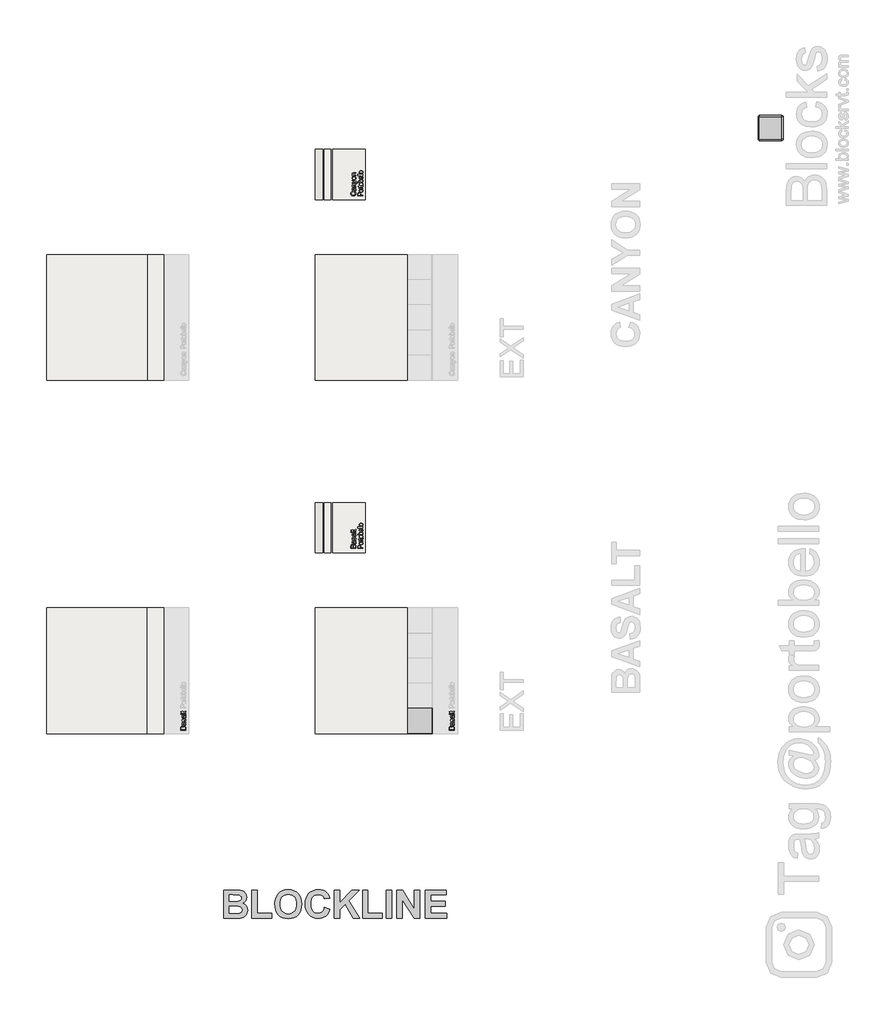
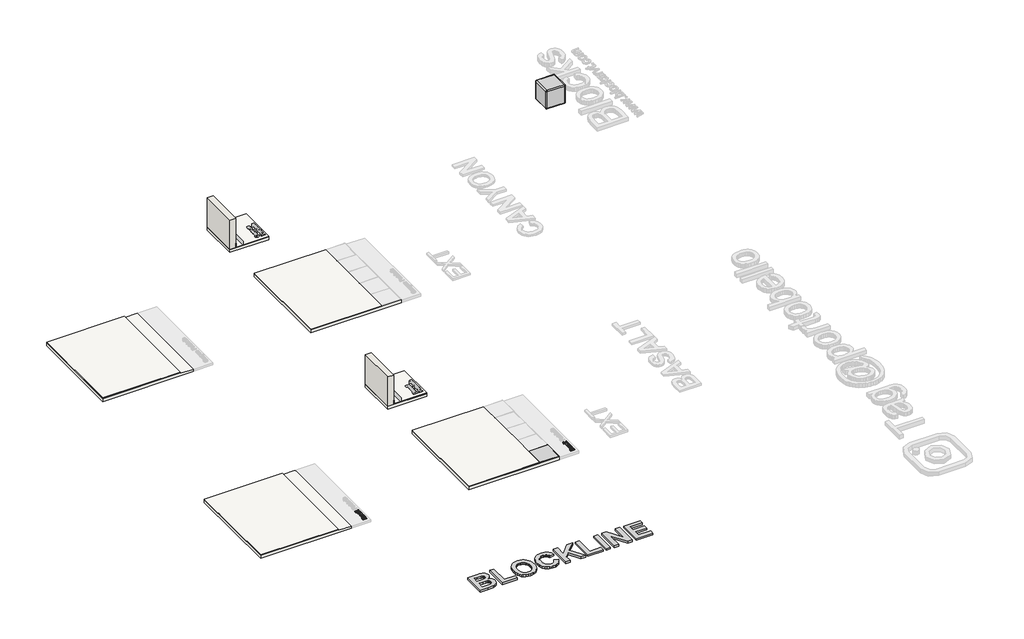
# One storey, part 1 of 6: 12 slabs, 4 proxies, 2 walls, 1 furniture element.
"""IFC4 building model written with IfcOpenShell, lengths in millimetres."""

from ifc_helpers import new_model, si_unit, frame, origin, origin_with_axes, place, context, project, spatial, polyline, outline, extrude, transform, mapped, element, save
from components import basalt_b67e728c, branco_22256ad2

model = new_model("IFC4")

# Units and contexts
model_context = context("Model", 3, world=origin())
ifc_project = project(units=[si_unit("LENGTHUNIT", "METRE", prefix="MILLI")], contexts=[model_context])

# Site, building, storey
site = spatial("IfcSite", under=ifc_project)
building = spatial("IfcBuilding", under=site)
storey = spatial("IfcBuildingStorey", under=building, Name="PORTOBELLO - SHOWROOM", Elevation=0.0)

# Proxies
placement = place(None, origin())
element("IfcBuildingElementProxy", 1, Name="10mm Arial", ObjectType="10mm Arial", at=placement, inside=storey, context=model_context, shape_type="SweptSolid", body=[
    extrude(outline(polyline([(-8366.357312, -8357.33877), (-8466.8136221, -8357.33877), (-8466.8136221, -8319.0054661), (-8463.8583034, -8300.2312217), (-8454.7716181, -8289.1457109), (-8441.9202738, -8285.1357971), (-8430.1848381, -8288.5080487), (-8421.2943566, -8298.69838), (-8411.9256284, -8286.3252822), (-8396.3029064, -8281.9965374), (-8382.8016371, -8284.9518561), (-8373.1876543, -8292.2727078), (-8368.0863573, -8303.1988031), (-8366.357312, -8319.2997717), (-8366.357312, -8357.33877)]), holes=[polyline([(-8426.0032461, -8344.7817313), (-8426.0032461, -8321.8504202), (-8427.0823666, -8308.4595156), (-8431.7299425, -8300.4028999), (-8439.9091855, -8297.6928359), (-8448.1006913, -8300.2189589), (-8452.9444709, -8307.4539715), (-8454.2565833, -8323.5917284), (-8454.2565833, -8344.7817313), (-8426.0032461, -8344.7817313)]), polyline([(-8378.9143507, -8344.7817313), (-8378.9143507, -8319.0299916), (-8379.40486, -8309.7103144), (-8382.1394495, -8301.825377), (-8387.7189931, -8296.6014526), (-8396.180279, -8294.5535762), (-8405.9414146, -8296.9570719), (-8411.7662129, -8304.7439075), (-8413.4462073, -8320.2562649), (-8413.4462073, -8344.7817313), (-8378.9143507, -8344.7817313)])]), frame((0.0, 0.0, -17.1171569), z_axis=(0.0, 0.0, 1.0), x_axis=(1.0, 0.0, 0.0)), (0.0, 0.0, 1.0), 20.0),
    extrude(outline(polyline([(-8375.775091, -8219.2113436), (-8367.2647542, -8231.3882376), (-8364.7876821, -8244.8404559), (-8366.2776042, -8255.3342898), (-8370.7473704, -8263.0751401), (-8377.5347932, -8267.848409), (-8385.977685, -8269.4394987), (-8395.9104989, -8267.036003), (-8403.120986, -8260.7206954), (-8407.2412643, -8251.9283157), (-8409.1297253, -8241.0635341), (-8413.4462073, -8219.28492), (-8416.2421105, -8219.2113436), (-8425.5127368, -8222.6694343), (-8429.1425058, -8236.5508483), (-8426.7267474, -8249.2550399), (-8418.1550969, -8255.31283), (-8419.7247267, -8267.8698688), (-8431.9874599, -8262.437478), (-8439.1734215, -8251.49912), (-8441.6995446, -8234.9321675), (-8439.4677271, -8219.7141156), (-8433.8636581, -8211.1179397), (-8425.3410585, -8207.2674415), (-8414.3536496, -8206.6543048), (-8398.7309275, -8206.6543048), (-8376.9155252, -8206.0166427), (-8366.357312, -8203.5150451), (-8366.357312, -8216.0720839), (-8375.775091, -8219.2113436)]), holes=[polyline([(-8400.8891686, -8219.2113436), (-8397.0386703, -8239.4693788), (-8395.0030566, -8250.2728467), (-8391.6921187, -8255.1656773), (-8386.8606018, -8256.8824599), (-8380.0670476, -8253.1423263), (-8377.3447209, -8242.1671801), (-8380.3490905, -8229.4629885), (-8387.6208913, -8221.2714828), (-8397.3329759, -8219.28492), (-8400.8891686, -8219.2113436)])]), frame((0.0, 0.0, -17.1171569), z_axis=(0.0, 0.0, 1.0), x_axis=(1.0, 0.0, 0.0)), (0.0, 0.0, 1.0), 20.0),
    extrude(outline(polyline([(-8388.3321298, -8194.0972661), (-8389.9017596, -8181.5402273), (-8380.5820824, -8175.7276918), (-8377.3447209, -8162.4103635), (-8380.3123023, -8149.6080701), (-8387.2775347, -8145.4387408), (-8392.918392, -8149.6325956), (-8396.4991101, -8162.5575163), (-8402.6427394, -8181.4666509), (-8409.8164383, -8189.7194703), (-8419.9454559, -8192.5276362), (-8429.3019213, -8190.2712933), (-8436.4510948, -8184.1154012), (-8440.1667029, -8176.132362), (-8441.6995446, -8165.328894), (-8439.2347352, -8150.0495285), (-8432.5638083, -8140.3374438), (-8421.2943566, -8136.0209617), (-8419.7247267, -8148.5780005), (-8426.653171, -8153.2991528), (-8429.1425058, -8164.3478754), (-8426.7635356, -8176.3653539), (-8421.2207802, -8179.9705974), (-8417.5664857, -8178.474544), (-8414.795108, -8173.7901799), (-8412.1218322, -8162.9744493), (-8406.2111948, -8144.5435613), (-8399.5157424, -8135.9841735), (-8388.6019099, -8132.8817021), (-8376.5844314, -8136.5237338), (-8367.8656281, -8147.0328961), (-8364.7876821, -8162.5820418), (-8366.2714728, -8175.2433138), (-8370.722845, -8184.4832832), (-8378.0927476, -8190.651438), (-8388.3321298, -8194.0972661)])), frame((0.0, 0.0, -17.1171569), z_axis=(0.0, 0.0, 1.0), x_axis=(1.0, 0.0, 0.0)), (0.0, 0.0, 1.0), 20.0),
    extrude(outline(polyline([(-8375.775091, -8071.6661381), (-8367.2647542, -8083.8430321), (-8364.7876821, -8097.2952504), (-8366.2776042, -8107.7890843), (-8370.7473704, -8115.5299346), (-8377.5347932, -8120.3032035), (-8385.977685, -8121.8942931), (-8395.9104989, -8119.4907974), (-8403.120986, -8113.1754898), (-8407.2412643, -8104.3831102), (-8409.1297253, -8093.5183286), (-8413.4462073, -8071.7397145), (-8416.2421105, -8071.6661381), (-8425.5127368, -8075.1242288), (-8429.1425058, -8089.0056428), (-8426.7267474, -8101.7098343), (-8418.1550969, -8107.7676245), (-8419.7247267, -8120.3246633), (-8431.9874599, -8114.8922725), (-8439.1734215, -8103.9539145), (-8441.6995446, -8087.386962), (-8439.4677271, -8072.1689101), (-8433.8636581, -8063.5727342), (-8425.3410585, -8059.7222359), (-8414.3536496, -8059.1090993), (-8398.7309275, -8059.1090993), (-8376.9155252, -8058.4714372), (-8366.357312, -8055.9698396), (-8366.357312, -8068.5268784), (-8375.775091, -8071.6661381)]), holes=[polyline([(-8400.8891686, -8071.6661381), (-8397.0386703, -8091.9241733), (-8395.0030566, -8102.7276412), (-8391.6921187, -8107.6204717), (-8386.8606018, -8109.3372544), (-8380.0670476, -8105.5971207), (-8377.3447209, -8094.6219746), (-8380.3490905, -8081.917783), (-8387.6208913, -8073.7262772), (-8397.3329759, -8071.7397145), (-8400.8891686, -8071.6661381)])]), frame((0.0, 0.0, -17.1171569), z_axis=(0.0, 0.0, 1.0), x_axis=(1.0, 0.0, 0.0)), (0.0, 0.0, 1.0), 20.0),
    extrude(outline(polyline([(-8366.357312, -8041.843171), (-8466.8136221, -8041.843171), (-8466.8136221, -8029.2861322), (-8366.357312, -8029.2861322), (-8366.357312, -8041.843171)])), frame((0.0, 0.0, -17.1171569), z_axis=(0.0, 0.0, 1.0), x_axis=(1.0, 0.0, 0.0)), (0.0, 0.0, 1.0), 20.0),
    extrude(outline(polyline([(-8376.8296861, -7983.7668667), (-8365.98943, -7982.1972368), (-8364.7876821, -7991.5904904), (-8366.8723467, -8002.1119155), (-8372.3415257, -8007.3603653), (-8386.5908217, -8008.8809442), (-8427.5728759, -8008.8809442), (-8427.5728759, -8018.2987233), (-8440.1299147, -8018.2987233), (-8440.1299147, -8008.8809442), (-8458.0580306, -8008.8809442), (-8465.440196, -7996.3239054), (-8440.1299147, -7996.3239054), (-8440.1299147, -7983.7668667), (-8427.5728759, -7983.7668667), (-8427.5728759, -7996.3239054), (-8386.9587037, -7996.3239054), (-8380.4839806, -7995.6617179), (-8378.1908495, -7993.5157395), (-8377.3447209, -7989.2360457), (-8376.8296861, -7983.7668667)])), frame((0.0, 0.0, -17.1171569), z_axis=(0.0, 0.0, 1.0), x_axis=(1.0, 0.0, 0.0)), (0.0, 0.0, 1.0), 20.0),
])
element("IfcBuildingElementProxy", 2, Name="10mm Arial", ObjectType="10mm Arial", at=placement, inside=storey, context=model_context, shape_type="SweptSolid", body=[
    extrude(outline(polyline([(-3022.357312, -8357.33877), (-3122.8136221, -8357.33877), (-3122.8136221, -8319.0054661), (-3119.8583034, -8300.2312217), (-3110.7716181, -8289.1457109), (-3097.9202738, -8285.1357971), (-3086.1848381, -8288.5080487), (-3077.2943566, -8298.69838), (-3067.9256284, -8286.3252822), (-3052.3029064, -8281.9965374), (-3038.8016371, -8284.9518561), (-3029.1876543, -8292.2727078), (-3024.0863573, -8303.1988031), (-3022.357312, -8319.2997717), (-3022.357312, -8357.33877)]), holes=[polyline([(-3082.0032461, -8344.7817313), (-3082.0032461, -8321.8504202), (-3083.0823666, -8308.4595156), (-3087.7299425, -8300.4028999), (-3095.9091855, -8297.6928359), (-3104.1006913, -8300.2189589), (-3108.9444709, -8307.4539715), (-3110.2565833, -8323.5917284), (-3110.2565833, -8344.7817313), (-3082.0032461, -8344.7817313)]), polyline([(-3034.9143507, -8344.7817313), (-3034.9143507, -8319.0299916), (-3035.40486, -8309.7103144), (-3038.1394495, -8301.825377), (-3043.7189931, -8296.6014526), (-3052.180279, -8294.5535762), (-3061.9414146, -8296.9570719), (-3067.7662129, -8304.7439075), (-3069.4462073, -8320.2562649), (-3069.4462073, -8344.7817313), (-3034.9143507, -8344.7817313)])]), frame((0.0, 0.0, -17.1171569), z_axis=(0.0, 0.0, 1.0), x_axis=(1.0, 0.0, 0.0)), (0.0, 0.0, 1.0), 20.0),
    extrude(outline(polyline([(-3031.775091, -8219.2113436), (-3023.2647542, -8231.3882376), (-3020.7876821, -8244.8404559), (-3022.2776042, -8255.3342898), (-3026.7473704, -8263.0751401), (-3033.5347932, -8267.848409), (-3041.977685, -8269.4394987), (-3051.9104989, -8267.036003), (-3059.120986, -8260.7206954), (-3063.2412643, -8251.9283157), (-3065.1297253, -8241.0635341), (-3069.4462073, -8219.28492), (-3072.2421105, -8219.2113436), (-3081.5127368, -8222.6694343), (-3085.1425058, -8236.5508483), (-3082.7267474, -8249.2550399), (-3074.1550969, -8255.31283), (-3075.7247267, -8267.8698688), (-3087.9874599, -8262.437478), (-3095.1734215, -8251.49912), (-3097.6995446, -8234.9321675), (-3095.4677271, -8219.7141156), (-3089.8636581, -8211.1179397), (-3081.3410585, -8207.2674415), (-3070.3536496, -8206.6543048), (-3054.7309275, -8206.6543048), (-3032.9155252, -8206.0166427), (-3022.357312, -8203.5150451), (-3022.357312, -8216.0720839), (-3031.775091, -8219.2113436)]), holes=[polyline([(-3056.8891686, -8219.2113436), (-3053.0386703, -8239.4693788), (-3051.0030566, -8250.2728467), (-3047.6921187, -8255.1656773), (-3042.8606018, -8256.8824599), (-3036.0670476, -8253.1423263), (-3033.3447209, -8242.1671801), (-3036.3490905, -8229.4629885), (-3043.6208913, -8221.2714828), (-3053.3329759, -8219.28492), (-3056.8891686, -8219.2113436)])]), frame((0.0, 0.0, -17.1171569), z_axis=(0.0, 0.0, 1.0), x_axis=(1.0, 0.0, 0.0)), (0.0, 0.0, 1.0), 20.0),
    extrude(outline(polyline([(-3044.3321298, -8194.0972661), (-3045.9017596, -8181.5402273), (-3036.5820824, -8175.7276918), (-3033.3447209, -8162.4103635), (-3036.3123023, -8149.6080701), (-3043.2775347, -8145.4387408), (-3048.918392, -8149.6325956), (-3052.4991101, -8162.5575163), (-3058.6427394, -8181.4666509), (-3065.8164383, -8189.7194703), (-3075.9454559, -8192.5276362), (-3085.3019213, -8190.2712933), (-3092.4510948, -8184.1154012), (-3096.1667029, -8176.132362), (-3097.6995446, -8165.328894), (-3095.2347352, -8150.0495285), (-3088.5638083, -8140.3374438), (-3077.2943566, -8136.0209617), (-3075.7247267, -8148.5780005), (-3082.653171, -8153.2991528), (-3085.1425058, -8164.3478754), (-3082.7635356, -8176.3653539), (-3077.2207802, -8179.9705974), (-3073.5664857, -8178.474544), (-3070.795108, -8173.7901799), (-3068.1218322, -8162.9744493), (-3062.2111948, -8144.5435613), (-3055.5157424, -8135.9841735), (-3044.6019099, -8132.8817021), (-3032.5844314, -8136.5237338), (-3023.8656281, -8147.0328961), (-3020.7876821, -8162.5820418), (-3022.2714728, -8175.2433138), (-3026.722845, -8184.4832832), (-3034.0927476, -8190.651438), (-3044.3321298, -8194.0972661)])), frame((0.0, 0.0, -17.1171569), z_axis=(0.0, 0.0, 1.0), x_axis=(1.0, 0.0, 0.0)), (0.0, 0.0, 1.0), 20.0),
    extrude(outline(polyline([(-3031.775091, -8071.6661381), (-3023.2647542, -8083.8430321), (-3020.7876821, -8097.2952504), (-3022.2776042, -8107.7890843), (-3026.7473704, -8115.5299346), (-3033.5347932, -8120.3032035), (-3041.977685, -8121.8942931), (-3051.9104989, -8119.4907974), (-3059.120986, -8113.1754898), (-3063.2412643, -8104.3831102), (-3065.1297253, -8093.5183286), (-3069.4462073, -8071.7397145), (-3072.2421105, -8071.6661381), (-3081.5127368, -8075.1242288), (-3085.1425058, -8089.0056428), (-3082.7267474, -8101.7098343), (-3074.1550969, -8107.7676245), (-3075.7247267, -8120.3246633), (-3087.9874599, -8114.8922725), (-3095.1734215, -8103.9539145), (-3097.6995446, -8087.386962), (-3095.4677271, -8072.1689101), (-3089.8636581, -8063.5727342), (-3081.3410585, -8059.7222359), (-3070.3536496, -8059.1090993), (-3054.7309275, -8059.1090993), (-3032.9155252, -8058.4714372), (-3022.357312, -8055.9698396), (-3022.357312, -8068.5268784), (-3031.775091, -8071.6661381)]), holes=[polyline([(-3056.8891686, -8071.6661381), (-3053.0386703, -8091.9241733), (-3051.0030566, -8102.7276412), (-3047.6921187, -8107.6204717), (-3042.8606018, -8109.3372544), (-3036.0670476, -8105.5971207), (-3033.3447209, -8094.6219746), (-3036.3490905, -8081.917783), (-3043.6208913, -8073.7262772), (-3053.3329759, -8071.7397145), (-3056.8891686, -8071.6661381)])]), frame((0.0, 0.0, -17.1171569), z_axis=(0.0, 0.0, 1.0), x_axis=(1.0, 0.0, 0.0)), (0.0, 0.0, 1.0), 20.0),
    extrude(outline(polyline([(-3022.357312, -8041.843171), (-3122.8136221, -8041.843171), (-3122.8136221, -8029.2861322), (-3022.357312, -8029.2861322), (-3022.357312, -8041.843171)])), frame((0.0, 0.0, -17.1171569), z_axis=(0.0, 0.0, 1.0), x_axis=(1.0, 0.0, 0.0)), (0.0, 0.0, 1.0), 20.0),
    extrude(outline(polyline([(-3032.8296861, -7983.7668667), (-3021.98943, -7982.1972368), (-3020.7876821, -7991.5904904), (-3022.8723467, -8002.1119155), (-3028.3415257, -8007.3603653), (-3042.5908217, -8008.8809442), (-3083.5728759, -8008.8809442), (-3083.5728759, -8018.2987233), (-3096.1299147, -8018.2987233), (-3096.1299147, -8008.8809442), (-3114.0580306, -8008.8809442), (-3121.440196, -7996.3239054), (-3096.1299147, -7996.3239054), (-3096.1299147, -7983.7668667), (-3083.5728759, -7983.7668667), (-3083.5728759, -7996.3239054), (-3042.9587037, -7996.3239054), (-3036.4839806, -7995.6617179), (-3034.1908495, -7993.5157395), (-3033.3447209, -7989.2360457), (-3032.8296861, -7983.7668667)])), frame((0.0, 0.0, -17.1171569), z_axis=(0.0, 0.0, 1.0), x_axis=(1.0, 0.0, 0.0)), (0.0, 0.0, 1.0), 20.0),
])
element("IfcBuildingElementProxy", 3, Name="550mm Arial", ObjectType="550mm Arial", at=placement, inside=storey, context=model_context, shape_type="SweptSolid", body=[
    extrude(outline(polyline([(-7608.4089057, -11541.5446312), (-7378.0787671, -11541.5446312), (-7318.4260447, -11542.9363541), (-7276.1350653, -11547.1115228), (-7244.2994042, -11555.7228082), (-7216.0126364, -11570.4228812), (-7191.7096754, -11591.0899662), (-7171.8254346, -11617.6022873), (-7158.569274, -11648.8290696), (-7154.1505538, -11683.6395385), (-7159.4217043, -11721.5639873), (-7175.2351556, -11756.2874734), (-7200.0948058, -11785.2701026), (-7232.5045526, -11805.9719807), (-7210.6718998, -11814.7224383), (-7191.5183135, -11826.0823764), (-7175.0437938, -11840.051795), (-7161.2483406, -11856.6306939), (-7150.3494107, -11875.3058755), (-7142.5644608, -11895.5641418), (-7137.8934908, -11917.405493), (-7136.3365008, -11940.8299289), (-7140.8074106, -11978.4238435), (-7154.22014, -12014.9391729), (-7175.3743279, -12047.2967301), (-7203.0696135, -12072.4173283), (-7237.6365308, -12089.7964679), (-7279.4056141, -12098.9296494), (-7416.6294912, -12102.6873012), (-7608.4089057, -12102.6873012), (-7608.4089057, -11541.5446312)]), holes=[polyline([(-7501.5245876, -11639.5219228), (-7501.5245876, -11764.2202939), (-7419.9696262, -11764.2202939), (-7329.5076382, -11762.4110541), (-7301.0295085, -11755.9047496), (-7279.336028, -11743.066106), (-7265.6101609, -11724.5213984), (-7261.0348719, -11700.8969023), (-7264.9838856, -11678.2988019), (-7276.8309268, -11660.32818), (-7296.436823, -11647.7504844), (-7323.6624021, -11641.3311626), (-7429.990031, -11639.5219228), (-7501.5245876, -11639.5219228)]), polyline([(-7501.5245876, -11862.1975855), (-7501.5245876, -12004.7100096), (-7388.5166888, -12004.7100096), (-7304.7349707, -12001.3698747), (-7279.9970963, -11993.9067607), (-7260.3390105, -11980.1461006), (-7247.5003668, -11960.366239), (-7243.2208189, -11934.8455204), (-7246.5261608, -11912.7171265), (-7256.4421864, -11894.207212), (-7272.5861719, -11879.768087), (-7294.5753936, -11869.8520614), (-7334.1003237, -11864.1112045), (-7402.8514346, -11862.1975855), (-7501.5245876, -11862.1975855)])]), origin_with_axes(), (0.0, 0.0, 1.0), 50.0),
    extrude(outline(polyline([(-7047.2662357, -12102.6873012), (-7047.2662357, -11541.5446312), (-6940.3819177, -11541.5446312), (-6940.3819177, -12004.7100096), (-6655.3570694, -12004.7100096), (-6655.3570694, -12102.6873012), (-7047.2662357, -12102.6873012)])), origin_with_axes(), (0.0, 0.0, 1.0), 50.0),
    extrude(outline(polyline([(-6593.0078839, -11825.5952734), (-6591.4334973, -11784.5220516), (-6586.7103378, -11746.8933439), (-6578.8384052, -11712.7091504), (-6567.8176995, -11681.969471), (-6545.6023229, -11641.4181452), (-6516.532711, -11605.2159535), (-6482.4876897, -11575.5896525), (-6445.346085, -11554.7659987), (-6418.607609, -11545.0848263), (-6389.8859278, -11538.1697032), (-6326.4929501, -11532.6376047), (-6268.6494674, -11537.4346996), (-6216.8947724, -11551.8259841), (-6171.228865, -11575.8114583), (-6131.6517452, -11609.3911222), (-6099.6856101, -11651.5124853), (-6076.8526564, -11701.1230573), (-6063.1528841, -11758.2228381), (-6058.5862934, -11822.8118277), (-6063.1180911, -11886.9615547), (-6076.7134841, -11943.7177539), (-6099.3724724, -11993.0804252), (-6131.0950561, -12035.0495687), (-6170.4112278, -12068.5379007), (-6215.8509802, -12092.4581379), (-6267.4143133, -12106.8102803), (-6325.1012272, -12111.5943277), (-6383.3970198, -12106.8320259), (-6435.3952664, -12092.5451206), (-6481.0959668, -12068.7336118), (-6520.4991212, -12035.3974994), (-6552.2217049, -11993.7110496), (-6574.8806932, -11944.8485287), (-6588.4760862, -11888.8099367), (-6593.0078839, -11825.5952734)]), holes=[polyline([(-6486.1235658, -11821.6984493), (-6483.2835812, -11866.0857113), (-6474.7636277, -11904.7495129), (-6460.563705, -11937.6898541), (-6440.6838134, -11964.9067349), (-6416.4286928, -11986.2174917), (-6389.1030837, -12001.4394608), (-6358.7069859, -12010.5726423), (-6325.2403995, -12013.6170361), (-6291.8086061, -12010.594388), (-6261.5168876, -12001.5264435), (-6234.3652438, -11986.4132027), (-6210.3536748, -11965.2546656), (-6190.7173346, -11938.0508322), (-6176.6913773, -11904.8017025), (-6168.275803, -11865.5072765), (-6165.4706115, -11820.1675542), (-6168.2018677, -11775.4584563), (-6176.3956362, -11736.8033529), (-6190.0519171, -11704.2022442), (-6209.1707103, -11677.65513), (-6232.8126029, -11657.0750278), (-6260.038182, -11642.3749547), (-6290.8474475, -11633.5549109), (-6325.2403995, -11630.6148963), (-6359.6681445, -11633.589704), (-6390.5817892, -11642.514127), (-6417.9813337, -11657.3881654), (-6441.8667778, -11678.2118192), (-6461.2291225, -11705.0285797), (-6475.0593688, -11737.8819382), (-6483.3575165, -11776.7718947), (-6486.1235658, -11821.6984493)])]), origin_with_axes(), (0.0, 0.0, 1.0), 50.0),
    extrude(outline(polyline([(-5604.3279415, -11888.918665), (-5497.4436234, -11924.546771), (-5512.2045844, -11966.8073065), (-5531.1581105, -12003.2660971), (-5554.3042018, -12033.9231429), (-5581.6428584, -12058.778444), (-5613.0610027, -12077.988569), (-5648.4455572, -12091.7100869), (-5687.796522, -12099.9429976), (-5731.113897, -12102.6873012), (-5784.6343404, -12097.9989347), (-5833.161978, -12083.9338352), (-5876.6968097, -12060.4920028), (-5915.2388356, -12027.6734373), (-5946.7787556, -11986.7219912), (-5969.3072699, -11938.8815168), (-5982.8243785, -11884.1520141), (-5987.3300813, -11822.5334831), (-5982.7852363, -11757.5574206), (-5969.1507011, -11700.270627), (-5946.4264757, -11650.6731025), (-5914.6125603, -11608.7648469), (-5875.3877204, -11575.4591784), (-5830.4307218, -11551.6694153), (-5779.7415646, -11537.3955573), (-5723.3202488, -11532.6376047), (-5673.9836723, -11536.5605236), (-5629.5181259, -11548.3292803), (-5589.9236096, -11567.9438748), (-5555.2001234, -11595.4043071), (-5537.1338207, -11615.9409181), (-5521.4856364, -11640.5309219), (-5508.2555706, -11669.1743187), (-5497.4436234, -11701.8711084), (-5604.3279415, -11719.6851614), (-5611.0647501, -11700.1097091), (-5620.698082, -11682.7175221), (-5633.2279372, -11667.5086003), (-5648.6543156, -11654.4829439), (-5666.4379247, -11644.0406731), (-5686.0394718, -11636.5819082), (-5707.4589569, -11632.1066493), (-5730.6963801, -11630.6148963), (-5762.458106, -11633.3244068), (-5791.0797571, -11641.4529383), (-5816.5613334, -11655.0004908), (-5838.9028349, -11673.9670644), (-5857.0778661, -11698.9963308), (-5870.0600312, -11730.7319618), (-5877.8493302, -11769.1739576), (-5880.4457633, -11814.322318), (-5877.9276146, -11862.1106028), (-5870.3731688, -11902.4879632), (-5857.7824258, -11935.4543992), (-5840.1553855, -11961.0099108), (-5818.4923489, -11980.128704), (-5793.7936167, -11993.7849849), (-5766.059189, -12001.9787534), (-5735.2890656, -12004.7100096), (-5712.3821767, -12002.9660069), (-5691.1192604, -11997.7339986), (-5671.5003167, -11989.0139849), (-5653.5253457, -11976.8059656), (-5637.5857695, -11960.8489928), (-5624.0730101, -11940.8821185), (-5612.9870674, -11916.9053425), (-5604.3279415, -11888.918665)])), origin_with_axes(), (0.0, 0.0, 1.0), 50.0),
    extrude(outline(polyline([(-5408.3733584, -12102.6873012), (-5408.3733584, -11541.5446312), (-5301.4890403, -11541.5446312), (-5301.4890403, -11797.3432987), (-5060.72098, -11541.5446312), (-4914.0333872, -11541.5446312), (-5126.4103005, -11755.8699566), (-4905.1263607, -12102.6873012), (-5030.1030764, -12102.6873012), (-5195.8572728, -11826.1519626), (-5301.4890403, -11932.8971084), (-5301.4890403, -12102.6873012), (-5408.3733584, -12102.6873012)])), origin_with_axes(), (0.0, 0.0, 1.0), 50.0),
    extrude(outline(polyline([(-4847.2306884, -12102.6873012), (-4847.2306884, -11541.5446312), (-4740.3463703, -11541.5446312), (-4740.3463703, -12004.7100096), (-4455.321522, -12004.7100096), (-4455.321522, -12102.6873012), (-4847.2306884, -12102.6873012)])), origin_with_axes(), (0.0, 0.0, 1.0), 50.0),
    extrude(outline(polyline([(-4375.1582835, -12102.6873012), (-4375.1582835, -11541.5446312), (-4268.2739654, -11541.5446312), (-4268.2739654, -12102.6873012), (-4375.1582835, -12102.6873012)])), origin_with_axes(), (0.0, 0.0, 1.0), 50.0),
    extrude(outline(polyline([(-4161.3896473, -12102.6873012), (-4161.3896473, -11541.5446312), (-4049.3559545, -11541.5446312), (-3814.0156135, -11919.2582241), (-3814.0156135, -11541.5446312), (-3707.1312954, -11541.5446312), (-3707.1312954, -12102.6873012), (-3822.6442954, -12102.6873012), (-4054.5053292, -11730.5405999), (-4054.5053292, -12102.6873012), (-4161.3896473, -12102.6873012)])), origin_with_axes(), (0.0, 0.0, 1.0), 50.0),
    extrude(outline(polyline([(-3600.2469773, -12102.6873012), (-3600.2469773, -11541.5446312), (-3181.6167315, -11541.5446312), (-3181.6167315, -11639.5219228), (-3493.3626592, -11639.5219228), (-3493.3626592, -11764.2202939), (-3199.4307845, -11764.2202939), (-3199.4307845, -11862.1975855), (-3493.3626592, -11862.1975855), (-3493.3626592, -12004.7100096), (-3172.709705, -12004.7100096), (-3172.709705, -12102.6873012), (-3600.2469773, -12102.6873012)])), origin_with_axes(), (0.0, 0.0, 1.0), 50.0),
])
basalt_shape = basalt_b67e728c(model_context)
element("IfcBuildingElementProxy", 4, Name="BORDA BLOCKLINE STEP BASALT 50X50 EXT BOLD : BASALT", ObjectType="BORDA BLOCKLINE STEP BASALT 50X50 EXT BOLD : BASALT", at=placement, inside=storey, context=model_context, shape_type="MappedRepresentation", body=[
    mapped(basalt_shape, transform((-3700.9370573, -8176.608239, 16.0), x_axis=(-1.0, 0.0, 0.0), y_axis=(0.0, -1.0, 0.0), z_axis=(0.0, 0.0, 1.0))),
])

# Furniture
branco_shape = branco_22256ad2(model_context)
element("IfcFurniture", 5, ObjectType="Blks_Mob_Blocks Revit_Cubo : Branco", at=placement, inside=storey, context=model_context, shape_type="MappedRepresentation", body=[
    mapped(branco_shape, transform((3274.2148271, 3625.2260964, 0.0), x_axis=(1.0, 0.0, 0.0), y_axis=(0.0, 1.0, 0.0), z_axis=(0.0, 0.0, 1.0))),
])

# Slabs
element("IfcSlab", 6, ObjectType="PORTOBELLO - LAJE", at=placement, inside=storey, context=model_context, shape_type="SweptSolid", body=[
    extrude(outline(polyline([(-80.0, -11135.9813168), (-80.0, -8802.9370573), (-17.1171569, -8802.9370573), (-17.1171569, -9137.9813016), (0.0, -9137.9813016), (0.0, -11135.9813168), (-80.0, -11135.9813168)])), frame((0.0, -8427.608239, 0.0), z_axis=(0.0, 1.0, 0.0), x_axis=(0.0, 0.0, 1.0)), (0.0, 0.0, 1.0), 2500.0),
])
element("IfcSlab", 7, ObjectType="PORTOBELLO - BLOCKLINE OUT BASALT 50X50 EXT BOLD", at=placement, inside=storey, context=model_context, shape_type="SweptSolid", body=[
    extrude(outline(polyline([(-11135.9813168, -8427.608239), (-11135.9813168, -5927.608239), (-9137.9813016, -5927.608239), (-9137.9813016, -8427.608239), (-11135.9813168, -8427.608239)])), origin_with_axes(), (0.0, 0.0, 1.0), 16.0),
])
element("IfcSlab", 8, ObjectType="PORTOBELLO - LAJE", at=placement, inside=storey, context=model_context, shape_type="SweptSolid", body=[
    extrude(outline(polyline([(-80.0, -11135.9813168), (-80.0, -8800.9370573), (-17.1171569, -8800.9370573), (-17.1171569, -9135.9813016), (0.0, -9135.9813016), (0.0, -11135.9813168), (-80.0, -11135.9813168)])), frame((0.0, -1395.608239, 0.0), z_axis=(0.0, 1.0, 0.0), x_axis=(0.0, 0.0, 1.0)), (0.0, 0.0, 1.0), 2500.0),
])
element("IfcSlab", 9, ObjectType="PORTOBELLO - BLOCKLINE OUT CANYON 50X50 EXT BOLD", at=placement, inside=storey, context=model_context, shape_type="SweptSolid", body=[
    extrude(outline(polyline([(-11135.9813168, -1395.608239), (-11135.9813168, 1104.391761), (-9135.9813016, 1104.391761), (-9135.9813016, -1395.608239), (-11135.9813168, -1395.608239)])), origin_with_axes(), (0.0, 0.0, 1.0), 16.0),
])
element("IfcSlab", 10, ObjectType="PORTOBELLO - LAJE", at=placement, inside=storey, context=model_context, shape_type="SweptSolid", body=[
    extrude(outline(polyline([(-4791.9813168, -3833.608239), (-4791.9813168, -4833.608239), (-5791.9813168, -4833.608239), (-5791.9813168, -3833.608239), (-4791.9813168, -3833.608239)])), frame((0.0, 0.0, -80.0), z_axis=(0.0, 0.0, 1.0), x_axis=(1.0, 0.0, 0.0)), (0.0, 0.0, 1.0), 80.0),
])
element("IfcSlab", 11, ObjectType="PORTOBELLO - BLOCKLINE OUT BASALT 50X50 EXT BOLD", at=placement, inside=storey, context=model_context, shape_type="SweptSolid", body=[
    extrude(outline(polyline([(-4791.9813168, -4833.608239), (-5641.9813168, -4833.608239), (-5641.9813168, -3833.608239), (-4791.9813168, -3833.608239), (-4791.9813168, -4833.608239)])), origin_with_axes(), (0.0, 0.0, 1.0), 16.0),
])
element("IfcSlab", 12, ObjectType="PORTOBELLO - LAJE", at=placement, inside=storey, context=model_context, shape_type="SweptSolid", body=[
    extrude(outline(polyline([(-4791.9813168, 3198.391761), (-4791.9813168, 2198.391761), (-5791.9813168, 2198.391761), (-5791.9813168, 3198.391761), (-4791.9813168, 3198.391761)])), frame((0.0, 0.0, -80.0), z_axis=(0.0, 0.0, 1.0), x_axis=(1.0, 0.0, 0.0)), (0.0, 0.0, 1.0), 80.0),
])
element("IfcSlab", 13, ObjectType="PORTOBELLO - BLOCKLINE OUT CANYON 50X50 EXT BOLD", at=placement, inside=storey, context=model_context, shape_type="SweptSolid", body=[
    extrude(outline(polyline([(-4791.9813168, 2198.391761), (-5641.9813168, 2198.391761), (-5641.9813168, 3198.391761), (-4791.9813168, 3198.391761), (-4791.9813168, 2198.391761)])), origin_with_axes(), (0.0, 0.0, 1.0), 16.0),
])
element("IfcSlab", 14, ObjectType="PORTOBELLO - LAJE", at=placement, inside=storey, context=model_context, shape_type="SweptSolid", body=[
    extrude(outline(polyline([(-80.0, -5791.9813168), (-80.0, -3458.9370573), (-9.0, -3458.9370573), (-9.0, -3960.9370726), (0.0, -3960.9370726), (0.0, -5791.9813168), (-80.0, -5791.9813168)])), frame((0.0, -8427.608239, 0.0), z_axis=(0.0, 1.0, 0.0), x_axis=(0.0, 0.0, 1.0)), (0.0, 0.0, 1.0), 2500.0),
])
element("IfcSlab", 15, ObjectType="PORTOBELLO - BLOCKLINE OUT BASALT 50X50 EXT BOLD", at=placement, inside=storey, context=model_context, shape_type="SweptSolid", body=[
    extrude(outline(polyline([(-5791.9813168, -8427.608239), (-5791.9813168, -5927.608239), (-3960.9370726, -5927.608239), (-3960.9370726, -8427.608239), (-5791.9813168, -8427.608239)])), origin_with_axes(), (0.0, 0.0, 1.0), 16.0),
])
element("IfcSlab", 16, ObjectType="PORTOBELLO - LAJE", at=placement, inside=storey, context=model_context, shape_type="SweptSolid", body=[
    extrude(outline(polyline([(-80.0, -5791.9813168), (-80.0, -3456.9370573), (-9.0, -3456.9370573), (-9.0, -3958.9370726), (0.0, -3958.9370726), (0.0, -5791.9813168), (-80.0, -5791.9813168)])), frame((0.0, -1395.608239, 0.0), z_axis=(0.0, 1.0, 0.0), x_axis=(0.0, 0.0, 1.0)), (0.0, 0.0, 1.0), 2500.0),
])
element("IfcSlab", 17, ObjectType="PORTOBELLO - BLOCKLINE OUT CANYON 50X50 EXT BOLD", at=placement, inside=storey, context=model_context, shape_type="SweptSolid", body=[
    extrude(outline(polyline([(-5791.9813168, -1395.608239), (-5791.9813168, 1104.391761), (-3958.9370726, 1104.391761), (-3958.9370726, -1395.608239), (-5791.9813168, -1395.608239)])), origin_with_axes(), (0.0, 0.0, 1.0), 16.0),
])

# Walls
element("IfcWall", 18, ObjectType="PORTOBELLO - PAREDE BRANCA", at=placement, inside=storey, context=model_context, shape_type="SweptSolid", body=[
    extrude(outline(polyline([(-5641.9813168, -3833.608239), (-5641.9813168, -4833.608239), (-5791.9813168, -4833.608239), (-5791.9813168, -3833.608239), (-5641.9813168, -3833.608239)])), origin_with_axes(), (0.0, 0.0, 1.0), 800.0),
])
element("IfcWall", 19, ObjectType="PORTOBELLO - PAREDE BRANCA", at=placement, inside=storey, context=model_context, shape_type="SweptSolid", body=[
    extrude(outline(polyline([(-5641.9813168, 3198.391761), (-5641.9813168, 2198.391761), (-5791.9813168, 2198.391761), (-5791.9813168, 3198.391761), (-5641.9813168, 3198.391761)])), origin_with_axes(), (0.0, 0.0, 1.0), 800.0),
])

save(model, "model.ifc")
